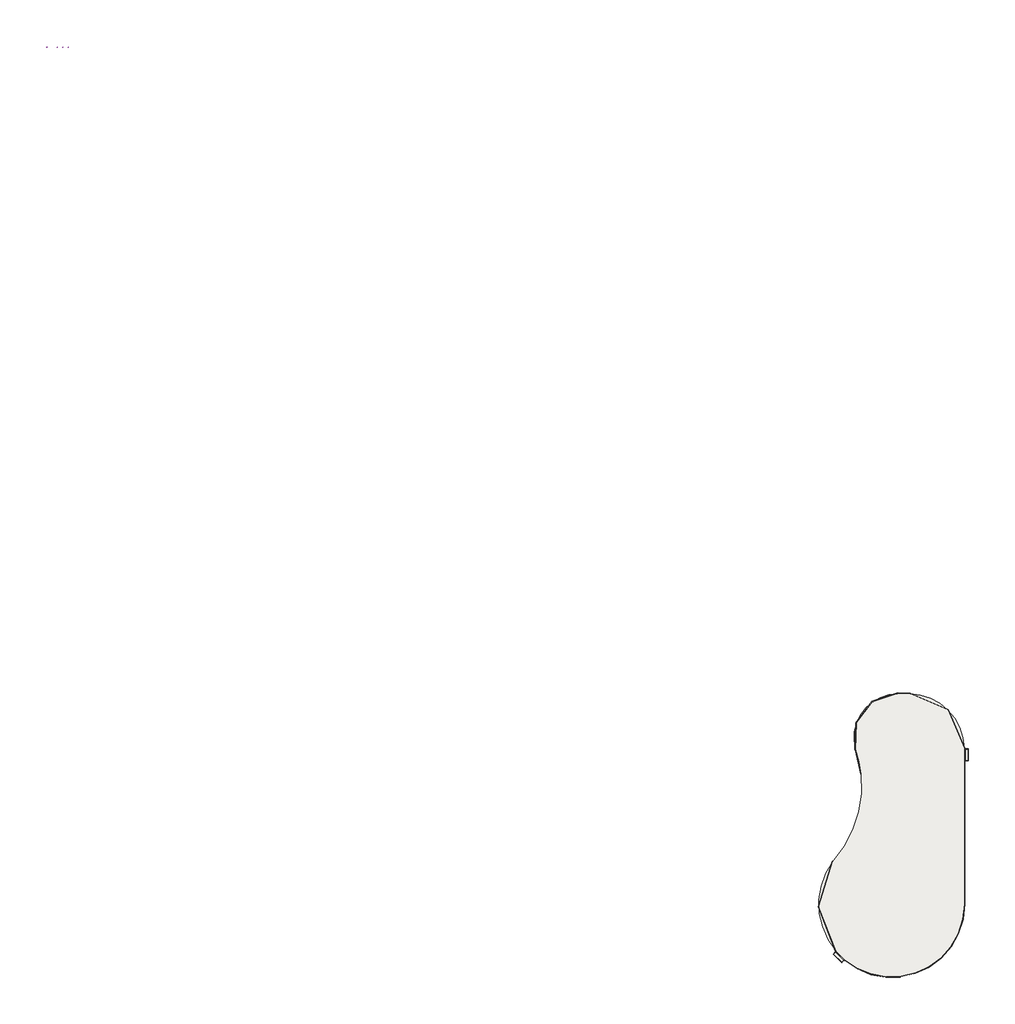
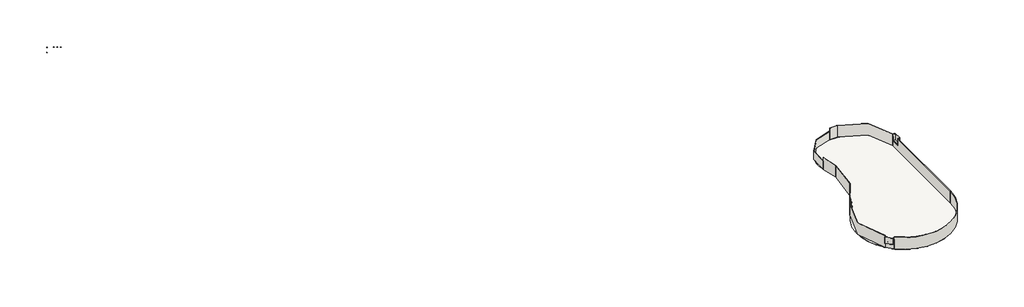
# One storey, incomplete: 15 walls, 9 slabs, 6 proxies.
"""IFC4 building model written with IfcOpenShell, lengths in millimetres."""

from ifc_helpers import new_model, si_unit, point, frame, frame_2d, origin, place, context, project, spatial, polyline, circle_curve, trimmed, segment, composite_curve, outline, extrude, faceted_brep, transform, mapped, element, save
from components import generic_models_2f38e3b8, generic_models_d5cd031a, pieza_114_aqua_blanco_liso_fd1d6eeb, pieza_116_aqua_blanco_liso_e9a23e22, pieza_138_aqua_blanco_anti_slip_5d6e6ee4, pieza_138_aqua_blanco_anti_slip_d2bc28ed, pieza_138_aqua_blanco_liso_60b84e58, pieza_138_aqua_blanco_liso_1ed27414, pieza_138_aqua_blanco_liso_d8f91d04, pieza_138_aqua_blanco_liso_beca3772

model = new_model("IFC4")

# Units and contexts
model_context = context("Model", 3, world=origin())
ifc_project = project(units=[si_unit("LENGTHUNIT", "METRE", prefix="MILLI")], contexts=[model_context])

# Site, building, storey
site = spatial("IfcSite", under=ifc_project)
building = spatial("IfcBuilding", under=site)
storey = spatial("IfcBuildingStorey", under=building, Name="10_NFondo PTo -4.20", Elevation=-4200.0)

# Proxies
placement = place(None, origin())
generic_models_shape = generic_models_2f38e3b8(model_context)
element("IfcBuildingElementProxy", 1, Name="ROSA GRES_115 : Pieza 115_Aqua_Marino_Anti-Slip", ObjectType="ROSA GRES_115 : Pieza 115_Aqua_Marino_Anti-Slip", at=placement, inside=storey, context=model_context, shape_type="MappedRepresentation", body=[
    mapped(generic_models_shape, transform((-21443.2348833, 32923.3948726, -340.0), x_axis=(0.0, 1.0, 0.0), y_axis=(-1.0, 0.0, 0.0), z_axis=(0.0, 0.0, 1.0))),
])
element("IfcBuildingElementProxy", 2, Name="ROSA GRES_115 : Pieza 115_Aqua_Marino_Anti-Slip", ObjectType="ROSA GRES_115 : Pieza 115_Aqua_Marino_Anti-Slip", at=placement, inside=storey, context=model_context, shape_type="MappedRepresentation", body=[
    mapped(generic_models_shape, transform((-21068.2348833, 32923.3948726, -490.0), x_axis=(0.0, 1.0, 0.0), y_axis=(-1.0, 0.0, 0.0), z_axis=(0.0, 0.0, 1.0))),
])
element("IfcBuildingElementProxy", 3, Name="ROSA GRES_115 : Pieza 115_Aqua_Marino_Anti-Slip", ObjectType="ROSA GRES_115 : Pieza 115_Aqua_Marino_Anti-Slip", at=placement, inside=storey, context=model_context, shape_type="MappedRepresentation", body=[
    mapped(generic_models_shape, transform((-20693.2348833, 32923.3948726, -640.0), x_axis=(0.0, 1.0, 0.0), y_axis=(-1.0, 0.0, 0.0), z_axis=(0.0, 0.0, 1.0))),
])
generic_models_2_shape = generic_models_d5cd031a(model_context)
element("IfcBuildingElementProxy", 4, Name="insitu_138 Marino Anti-Slip PTo : insitu_138 Marino Anti-Slip PTo", ObjectType="insitu_138 Marino Anti-Slip PTo : insitu_138 Marino Anti-Slip PTo", at=placement, inside=storey, context=model_context, shape_type="MappedRepresentation", body=[
    mapped(generic_models_2_shape, transform((0.0, 0.0, 0.0), x_axis=(1.0, 0.0, 0.0), y_axis=(0.0, 1.0, 0.0), z_axis=(0.0, 0.0, 1.0))),
])
pieza_114_aqua_blanco_liso_shape = pieza_114_aqua_blanco_liso_fd1d6eeb(model_context)
element("IfcBuildingElementProxy", 5, Name="ROSA GRES_114 : Pieza 114_Aqua_Blanco_Liso", ObjectType="ROSA GRES_114 : Pieza 114_Aqua_Blanco_Liso", at=placement, inside=storey, context=model_context, shape_type="MappedRepresentation", body=[
    mapped(pieza_114_aqua_blanco_liso_shape, transform((-22163.2437461, 32953.3594212, -760.0), x_axis=(0.0, 1.0, 0.0), y_axis=(-1.0, 0.0, 0.0), z_axis=(0.0, 0.0, 1.0))),
])
pieza_116_aqua_blanco_liso_shape = pieza_116_aqua_blanco_liso_e9a23e22(model_context)
element("IfcBuildingElementProxy", 6, Name="ROSA GRES_116 : Pieza 116_Aqua_Blanco_Liso", ObjectType="ROSA GRES_116 : Pieza 116_Aqua_Blanco_Liso", at=placement, inside=storey, context=model_context, shape_type="MappedRepresentation", body=[
    mapped(pieza_116_aqua_blanco_liso_shape, transform((-22163.2082944, 32923.3948726, -190.0), x_axis=(0.0, 0.0, 1.0), y_axis=(0.0, -1.0, 0.0), z_axis=(1.0, 0.0, 0.0))),
])

# Slabs
element("IfcSlab", 7, ObjectType="Pieza 244 G1_Patrón Recto_Aqua_Blanco_Anti-Slip", at=placement, inside=storey, context=model_context, shape_type="SweptSolid", body=[
    extrude(outline(composite_curve([segment(trimmed(circle_curve(frame_2d((35534.2460496, -25538.6398936)), 4957.4844984), [point((31734.7823349, -28723.0908717))], [point((31524.7349603, -22623.082764))], False, "CARTESIAN"), True, "CONTINUOUS"), segment(trimmed(circle_curve(frame_2d((25819.8612532, -17471.9077255)), 7686.3637885), [point((31524.7349603, -22623.082764))], [point((33463.6303774, -16663.8347917))], True, "CARTESIAN"), True, "CONTINUOUS"), segment(trimmed(circle_curve(frame_2d((26213.6229072, -17390.0811023)), 7286.2913764), [point((33463.6303774, -16663.8347917))], [point((33088.8802653, -14977.4314631))], True, "CARTESIAN"), True, "CONTINUOUS"), segment(trimmed(circle_curve(frame_2d((35958.3421329, -14167.9787946)), 2981.4468018), [point((33088.8802653, -14977.4314631))], [point((35945.2267043, -11186.5608404))], False, "CARTESIAN"), True, "CONTINUOUS"), segment(polyline([(35945.2267043, -11186.5608404), (36771.5393464, -11186.5608404)]), True, "CONTINUOUS"), segment(trimmed(circle_curve(frame_2d((36724.8557766, -14953.4035105)), 3767.1319404), [point((36771.5393464, -11186.5608404))], [point((40491.6984457, -14906.7198644))], False, "CARTESIAN"), True, "CONTINUOUS"), segment(polyline([(40491.6984457, -14906.7198644), (40491.6984457, -25556.4806309)]), True, "CONTINUOUS"), segment(trimmed(circle_curve(frame_2d((35534.2460496, -25538.6398936)), 4957.4844984), [point((40491.6984457, -25556.4806309))], [point((32356.3348949, -29343.5752733))], False, "CARTESIAN"), True, "CONTINUOUS"), segment(polyline([(32356.3348949, -29343.5752733), (31734.7823349, -28723.0908717)]), True, "CONTINUOUS")], self_intersect=False)), frame((0.0, 0.0, -4209.0), z_axis=(0.0, 0.0, 1.0), x_axis=(1.0, 0.0, 0.0)), (0.0, 0.0, 1.0), 9.0),
])
element("IfcSlab", 8, ObjectType="Pieza 244 G1_Patrón Recto_Aqua_Blanco_Anti-Slip", at=placement, inside=storey, context=model_context, shape_type="SweptSolid", body=[
    extrude(outline(polyline([(40561.7250342, -15746.6039767), (40561.7250342, -14946.6039767), (40765.3213191, -14946.6039767), (40765.3213191, -15746.6039767), (40561.7250342, -15746.6039767)])), frame((0.0, 0.0, -3559.0), z_axis=(0.0, 0.0, 1.0), x_axis=(1.0, 0.0, 0.0)), (0.0, 0.0, 1.0), 9.0),
])
element("IfcSlab", 9, ObjectType="Pieza 244 G1_Patrón Recto_Aqua_Blanco_Anti-Slip", at=placement, inside=storey, context=model_context, shape_type="SweptSolid", body=[
    extrude(outline(polyline([(31573.9186212, -28937.4052397), (31712.0143793, -28799.3094816), (32278.1862967, -29364.5084141), (32139.6040461, -29503.0906647), (31573.9186212, -28937.4052397)])), frame((0.0, 0.0, -3559.0), z_axis=(0.0, 0.0, 1.0), x_axis=(1.0, 0.0, 0.0)), (0.0, 0.0, 1.0), 9.0),
])
pieza_138_aqua_blanco_anti_slip_shape = pieza_138_aqua_blanco_anti_slip_5d6e6ee4(model_context)
element("IfcSlab", 10, ObjectType="ROSA GRES_138 : Pieza 138_Aqua_Blanco_Anti-Slip", at=placement, inside=storey, context=model_context, shape_type="MappedRepresentation", body=[
    mapped(pieza_138_aqua_blanco_anti_slip_shape, transform((40561.7250342, -14906.5341764, -3590.0), x_axis=(0.0, -1.0, 0.0), y_axis=(0.0, 0.0, 1.0), z_axis=(-1.0, 0.0, 0.0))),
])
pieza_138_aqua_blanco_anti_slip_2_shape = pieza_138_aqua_blanco_anti_slip_d2bc28ed(model_context)
element("IfcSlab", 11, ObjectType="ROSA GRES_138 : Pieza 138_Aqua_Blanco_Anti-Slip", at=placement, inside=storey, context=model_context, shape_type="MappedRepresentation", body=[
    mapped(pieza_138_aqua_blanco_anti_slip_2_shape, transform((32307.8031418, -29394.0743618, -3590.0), x_axis=(-0.7077146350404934, 0.7064984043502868, 0.0), y_axis=(0.0, 0.0, 1.0), z_axis=(0.7064984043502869, 0.7077146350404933, 0.0))),
])
pieza_138_aqua_blanco_liso_shape = pieza_138_aqua_blanco_liso_60b84e58(model_context)
element("IfcSlab", 12, ObjectType="ROSA GRES_138 : Pieza 138_Aqua_Blanco_Liso", at=placement, inside=storey, context=model_context, shape_type="MappedRepresentation", body=[
    mapped(pieza_138_aqua_blanco_liso_shape, transform((40561.6734804, -15786.6039767, -3104.2252754), x_axis=(0.0, 0.0, -1.0), y_axis=(-1.0, 0.0, 0.0), z_axis=(0.0, 1.0, 0.0))),
])
pieza_138_aqua_blanco_liso_2_shape = pieza_138_aqua_blanco_liso_1ed27414(model_context)
element("IfcSlab", 13, ObjectType="ROSA GRES_138 : Pieza 138_Aqua_Blanco_Liso", at=placement, inside=storey, context=model_context, shape_type="MappedRepresentation", body=[
    mapped(pieza_138_aqua_blanco_liso_2_shape, transform((40561.7229086, -14906.6039767, -3103.641153), x_axis=(0.0, 0.0, -1.0), y_axis=(1.0, 0.0, 0.0), z_axis=(0.0, -1.0, 0.0))),
])
pieza_138_aqua_blanco_liso_3_shape = pieza_138_aqua_blanco_liso_d8f91d04(model_context)
element("IfcSlab", 14, ObjectType="ROSA GRES_138 : Pieza 138_Aqua_Blanco_Liso", at=placement, inside=storey, context=model_context, shape_type="MappedRepresentation", body=[
    mapped(pieza_138_aqua_blanco_liso_3_shape, transform((32306.3558971, -29392.9073563, -3104.0), x_axis=(0.0, 0.0, -1.0), y_axis=(-0.7071067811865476, -0.7071067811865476, 0.0), z_axis=(-0.7071067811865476, 0.7071067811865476, 0.0))),
])
pieza_138_aqua_blanco_liso_4_shape = pieza_138_aqua_blanco_liso_beca3772(model_context)
element("IfcSlab", 15, ObjectType="ROSA GRES_138 : Pieza 138_Aqua_Blanco_Liso", at=placement, inside=storey, context=model_context, shape_type="MappedRepresentation", body=[
    mapped(pieza_138_aqua_blanco_liso_4_shape, transform((31684.3795942, -28771.7229617, -3104.0), x_axis=(0.0, 0.0, -1.0), y_axis=(0.707106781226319, 0.7071067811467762, 0.0), z_axis=(0.7071067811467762, -0.707106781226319, 0.0))),
])

# Walls
element("IfcWall", 16, ObjectType="Pieza 244 G1_Patrón Recto_Aqua_Blanco_Liso 90º Muro Curvo", at=placement, inside=storey, context=model_context, shape_type="SweptSolid", body=[
    extrude(outline(composite_curve([segment(polyline([(36771.7250341, -11156.5342519), (36771.7805479, -11147.5342519)]), True, "CONTINUOUS"), segment(trimmed(circle_curve(frame_2d((36724.8557766, -14953.4035105)), 3806.158529), [point((36771.7805479, -11147.5342519))], [point((40530.7250342, -14906.4786625))], False, "CARTESIAN"), True, "CONTINUOUS"), segment(polyline([(40530.7250342, -14906.4786625), (40521.7250342, -14906.5341764)]), True, "CONTINUOUS"), segment(trimmed(circle_curve(frame_2d((36724.8557766, -14953.4035105)), 3797.158529), [point((40521.7250342, -14906.5341764))], [point((36771.7250341, -11156.5342519))], True, "CARTESIAN"), True, "CONTINUOUS")], self_intersect=False)), frame((0.0, 0.0, -4170.0), z_axis=(0.0, 0.0, 1.0), x_axis=(1.0, 0.0, 0.0)), (0.0, 0.0, 1.0), 1316.0),
])
element("IfcWall", 17, ObjectType="Pieza 244 G1_Patrón Recto_Aqua_Blanco_Liso 90º Muro Curvo", at=placement, inside=storey, context=model_context, shape_type="SweptSolid", body=[
    extrude(outline(polyline([(35945.1411437, -11147.5342519), (36771.7805479, -11147.5342519), (36771.7250341, -11156.5342519), (35945.1608257, -11156.5342519), (35945.1411437, -11147.5342519)])), frame((0.0, 0.0, -4170.0), z_axis=(0.0, 0.0, 1.0), x_axis=(1.0, 0.0, 0.0)), (0.0, 0.0, 1.0), 1316.0),
])
element("IfcWall", 18, ObjectType="Pieza 244 G1_Patrón Recto_Aqua_Blanco_Liso 90º Muro Curvo", at=placement, inside=storey, context=model_context, shape_type="Brep", body=[
    faceted_brep([(40530.7250342, -25556.5507169, -4170.0), (40530.7250342, -14906.4786625, -4170.0), (40530.7250342, -14906.4786625, -3590.0), (40530.7250342, -15786.6737008, -3590.0), (40530.7250342, -15786.6737008, -2854.0), (40530.7250342, -25556.5507169, -2854.0), (40521.7250342, -25556.5345786, -4170.0), (40521.7250342, -25556.5345786, -2854.0), (40521.7250342, -15786.6737008, -2854.0), (40521.7250342, -15786.6737008, -3590.0), (40521.7250342, -14906.5341764, -3590.0), (40521.7250342, -14906.5341764, -4170.0)], [[[0, 1, 2, 3, 4, 5]], [[6, 7, 8, 9, 10, 11]], [[2, 1, 11, 10]], [[0, 5, 7, 6]], [[1, 0, 6, 11]], [[5, 4, 8, 7]], [[3, 2, 10, 9]], [[4, 3, 9, 8]]]),
])
element("IfcWall", 19, ObjectType="Pieza 244 G1_Patrón Recto_Aqua_Blanco_Liso 90º Muro Curvo", at=placement, inside=storey, context=model_context, shape_type="SweptSolid", body=[
    extrude(outline(composite_curve([segment(polyline([(31712.6267324, -28743.4008265), (31705.9865747, -28749.4890701)]), True, "CONTINUOUS"), segment(trimmed(circle_curve(frame_2d((35534.2460496, -25538.6398936)), 4996.5110869), [point((31705.9865747, -28749.4890701))], [point((31494.3896595, -22598.4556495))], False, "CARTESIAN"), True, "CONTINUOUS"), segment(polyline([(31494.3896595, -22598.4556495), (31501.3868934, -22604.1358694)]), True, "CONTINUOUS"), segment(trimmed(circle_curve(frame_2d((35534.2460496, -25538.6398936)), 4987.5110869), [point((31501.3868934, -22604.1358694))], [point((31712.6267324, -28743.4008265))], True, "CARTESIAN"), True, "CONTINUOUS")], self_intersect=False)), frame((0.0, 0.0, -4170.0), z_axis=(0.0, 0.0, 1.0), x_axis=(1.0, 0.0, 0.0)), (0.0, 0.0, 1.0), 1316.0),
])
element("IfcWall", 20, ObjectType="Pieza 244 G1_Patrón Recto_Aqua_Blanco_Liso 90º Muro Curvo", at=placement, inside=storey, context=model_context, shape_type="SweptSolid", body=[
    extrude(outline(composite_curve([segment(polyline([(31501.3868934, -22604.1358694), (31494.3896595, -22598.4556495)]), True, "CONTINUOUS"), segment(trimmed(circle_curve(frame_2d((25819.8612532, -17471.9077255)), 7647.3372), [point((31494.3896595, -22598.4556495))], [point((33424.8088011, -16667.8312091))], True, "CARTESIAN"), True, "CONTINUOUS"), segment(polyline([(33424.8088011, -16667.8312091), (33433.7615231, -16666.9095886)]), True, "CONTINUOUS"), segment(trimmed(circle_curve(frame_2d((25819.8612532, -17471.9077255)), 7656.3372), [point((33433.7615231, -16666.9095886))], [point((31501.3868934, -22604.1358694))], False, "CARTESIAN"), True, "CONTINUOUS")], self_intersect=False)), frame((0.0, 0.0, -4170.0), z_axis=(0.0, 0.0, 1.0), x_axis=(1.0, 0.0, 0.0)), (0.0, 0.0, 1.0), 1316.0),
])
element("IfcWall", 21, ObjectType="Pieza 244 G1_Patrón Recto_Aqua_Blanco_Liso 90º Muro Curvo", at=placement, inside=storey, context=model_context, shape_type="SweptSolid", body=[
    extrude(outline(composite_curve([segment(polyline([(33433.7615231, -16666.9095886), (33424.8088011, -16667.8312091)]), True, "CONTINUOUS"), segment(trimmed(circle_curve(frame_2d((26213.6229072, -17390.0811023)), 7247.2647878), [point((33424.8088011, -16667.8312091))], [point((33051.6527561, -14989.2073677))], True, "CARTESIAN"), True, "CONTINUOUS"), segment(polyline([(33051.6527561, -14989.2073677), (33060.2375552, -14986.4907601)]), True, "CONTINUOUS"), segment(trimmed(circle_curve(frame_2d((26213.6229072, -17390.0811023)), 7256.2647878), [point((33060.2375552, -14986.4907601))], [point((33433.7615231, -16666.9095886))], False, "CARTESIAN"), True, "CONTINUOUS")], self_intersect=False)), frame((0.0, 0.0, -4170.0), z_axis=(0.0, 0.0, 1.0), x_axis=(1.0, 0.0, 0.0)), (0.0, 0.0, 1.0), 1316.0),
])
element("IfcWall", 22, ObjectType="Pieza 244 G1_Patrón Recto_Aqua_Blanco_Liso 90º Muro Curvo", at=placement, inside=storey, context=model_context, shape_type="SweptSolid", body=[
    extrude(outline(composite_curve([segment(polyline([(33060.2375552, -14986.4907601), (33051.6527561, -14989.2073677)]), True, "CONTINUOUS"), segment(trimmed(circle_curve(frame_2d((35958.3421329, -14167.9787946)), 3020.4733904), [point((33051.6527561, -14989.2073677))], [point((35945.1411437, -11147.5342519))], False, "CARTESIAN"), True, "CONTINUOUS"), segment(polyline([(35945.1411437, -11147.5342519), (35945.1608257, -11156.5342519)]), True, "CONTINUOUS"), segment(trimmed(circle_curve(frame_2d((35958.3421329, -14167.9787946)), 3011.4733904), [point((35945.1608257, -11156.5342519))], [point((33060.2375552, -14986.4907601))], True, "CARTESIAN"), True, "CONTINUOUS")], self_intersect=False)), frame((0.0, 0.0, -4170.0), z_axis=(0.0, 0.0, 1.0), x_axis=(1.0, 0.0, 0.0)), (0.0, 0.0, 1.0), 930.0),
])
element("IfcWall", 23, ObjectType="Pieza 244 G1_Patrón Recto_Aqua_Blanco_Liso 90º Muro Curvo", at=placement, inside=storey, context=model_context, shape_type="SweptSolid", body=[
    extrude(outline(composite_curve([segment(polyline([(40521.7250342, -25556.5345786), (40530.7250342, -25556.5507169)]), True, "CONTINUOUS"), segment(trimmed(circle_curve(frame_2d((35534.2460496, -25538.6398936)), 4996.5110869), [point((40530.7250342, -25556.5507169))], [point((32330.2919336, -29372.6718528))], False, "CARTESIAN"), True, "CONTINUOUS"), segment(polyline([(32330.2919336, -29372.6718528), (32336.063078, -29365.7657763)]), True, "CONTINUOUS"), segment(trimmed(circle_curve(frame_2d((35534.2460496, -25538.6398936)), 4987.5110869), [point((32336.063078, -29365.7657763))], [point((40521.7250342, -25556.5345786))], True, "CARTESIAN"), True, "CONTINUOUS")], self_intersect=False)), frame((0.0, 0.0, -4170.0), z_axis=(0.0, 0.0, 1.0), x_axis=(1.0, 0.0, 0.0)), (0.0, 0.0, 1.0), 1316.0),
])
element("IfcWall", 24, ObjectType="Pieza 244 G1_Patrón Recto_Aqua_Blanco_Liso 90º Muro Curvo", at=placement, inside=storey, context=model_context, shape_type="SweptSolid", body=[
    extrude(outline(polyline([(31712.6267324, -28743.4008265), (32336.063078, -29365.7657763), (32329.7045924, -29372.1352081), (31705.9865747, -28749.4890701), (31712.6267324, -28743.4008265)])), frame((0.0, 0.0, -4170.0), z_axis=(0.0, 0.0, 1.0), x_axis=(1.0, 0.0, 0.0)), (0.0, 0.0, 1.0), 580.0),
])
element("IfcWall", 25, ObjectType="Pieza 244 G1_Patrón Recto_Aqua_Blanco_Liso 90º Muro Curvo", at=placement, inside=storey, context=model_context, shape_type="Brep", body=[
    faceted_brep([(31567.5546602, -28943.7692007, -3550.0), (31573.9186212, -28937.4052397, -3550.0), (31711.9902467, -28799.3336142, -3550.0), (31711.9902467, -28799.3336142, -2853.4118169), (31567.5546602, -28943.7692007, -2836.7857778), (31561.1906991, -28937.4052397, -3550.0), (31561.1906991, -28937.4052397, -2836.7857778), (31705.6262857, -28792.9696532, -2853.4118169), (31705.6262857, -28792.9696532, -3550.0)], [[[0, 1, 2, 3, 4]], [[5, 6, 7, 8]], [[0, 4, 6, 5]], [[2, 1, 0, 5, 8]], [[3, 2, 8, 7]], [[4, 3, 7, 6]]]),
])
element("IfcWall", 26, ObjectType="Pieza 244 G1_Patrón Recto_Aqua_Blanco_Liso 90º Muro Curvo", at=placement, inside=storey, context=model_context, shape_type="Brep", body=[
    faceted_brep([(31567.5546602, -28943.7692007, -3550.0), (32139.6040461, -29515.8185867, -3550.0), (32139.6040461, -29515.8185867, -2836.8), (31567.5546602, -28943.7692007, -2836.8), (31573.9186212, -28937.4052397, -3550.0), (31573.9186212, -28937.4052397, -2836.8), (32145.9680072, -29509.4546257, -2836.8), (32145.9680072, -29509.4546257, -2837.518336), (32145.9680072, -29509.4546257, -3550.0), (32139.6040461, -29503.0906647, -3550.0)], [[[0, 1, 2, 3]], [[4, 5, 6, 7, 8, 9]], [[1, 0, 4, 9, 8]], [[3, 2, 6, 5]], [[0, 3, 5, 4]], [[2, 1, 8, 7, 6]]]),
])
element("IfcWall", 27, ObjectType="Pieza 244 G1_Patrón Recto_Aqua_Blanco_Liso 90º Muro Curvo", at=placement, inside=storey, context=model_context, shape_type="SweptSolid", body=[
    extrude(outline(polyline([(-15.0, 0.0), (180.8227291, 0.0), (180.8227291, -696.5426047), (-15.0, -712.481664), (-15.0, 0.0)])), frame((32156.5746089, -29498.848024, -3550.0), z_axis=(-0.7071067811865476, 0.7071067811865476, 0.0), x_axis=(0.7071067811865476, 0.7071067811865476, 0.0)), (0.0, 0.0, 1.0), 9.0),
])
element("IfcWall", 28, ObjectType="Pieza 244 G1_Patrón Recto_Aqua_Blanco_Liso 90º Muro Curvo", at=placement, inside=storey, context=model_context, shape_type="SweptSolid", body=[
    extrude(outline(polyline([(-3550.0, 40561.8820787), (-3550.0, 40765.3213191), (-2837.5747412, 40765.3213191), (-2854.1337491, 40561.8820787), (-3550.0, 40561.8820787)])), frame((0.0, -14946.6039767, 0.0), z_axis=(0.0, 1.0, 0.0), x_axis=(0.0, 0.0, 1.0)), (0.0, 0.0, 1.0), 9.0),
])
element("IfcWall", 29, ObjectType="Pieza 244 G1_Patrón Recto_Aqua_Blanco_Liso 90º Muro Curvo", at=placement, inside=storey, context=model_context, shape_type="Brep", body=[
    faceted_brep([(40765.3213191, -14937.6039767, -3550.0), (40765.3213191, -14946.6039767, -3550.0), (40765.3213191, -15746.6039767, -3550.0), (40765.3213191, -15755.6039767, -3550.0), (40765.3213191, -15755.6039767, -2837.5747412), (40765.3213191, -15755.6039767, -2836.8318133), (40765.3213191, -14937.6039767, -2836.8318133), (40765.3213191, -14937.6039767, -2837.5747412), (40774.3213191, -14937.6039767, -3550.0), (40774.3213191, -14937.6039767, -2836.8318133), (40774.3213191, -15755.6039767, -2836.8318133), (40774.3213191, -15755.6039767, -3550.0)], [[[0, 1, 2, 3, 4, 5, 6, 7]], [[8, 9, 10, 11]], [[3, 2, 1, 0, 8, 11]], [[6, 5, 10, 9]], [[0, 7, 6, 9, 8]], [[5, 4, 3, 11, 10]]]),
])
element("IfcWall", 30, ObjectType="Pieza 244 G1_Patrón Recto_Aqua_Blanco_Liso 90º Muro Curvo", at=placement, inside=storey, context=model_context, shape_type="SweptSolid", body=[
    extrude(outline(polyline([(-3550.0, 40561.6343559), (-3550.0, 40765.3213191), (-2837.5747412, 40765.3213191), (-2854.1539126, 40561.6343559), (-3550.0, 40561.6343559)])), frame((0.0, -15755.6039767, 0.0), z_axis=(0.0, 1.0, 0.0), x_axis=(0.0, 0.0, 1.0)), (0.0, 0.0, 1.0), 9.0),
])

save(model, "model.ifc")
